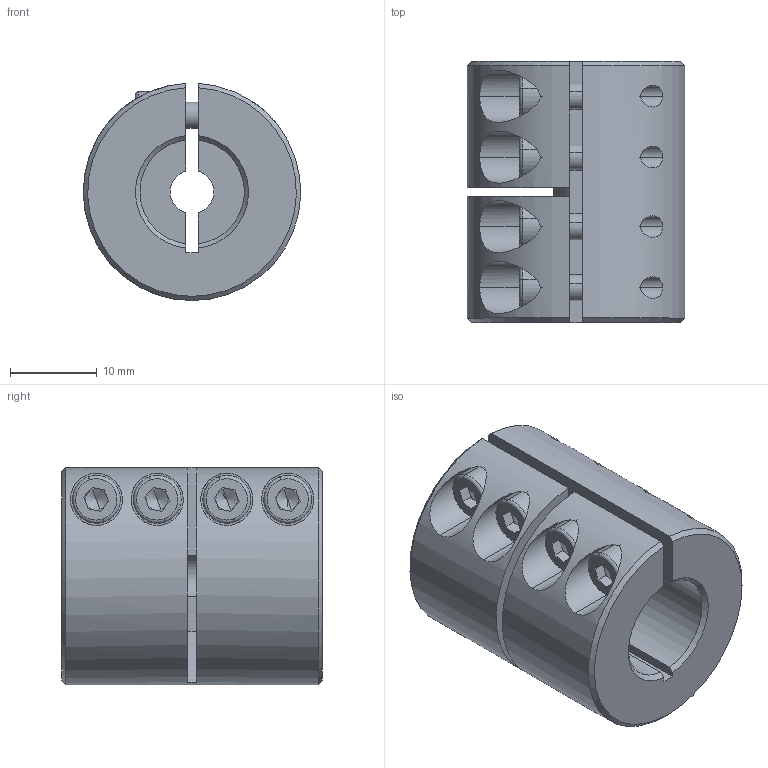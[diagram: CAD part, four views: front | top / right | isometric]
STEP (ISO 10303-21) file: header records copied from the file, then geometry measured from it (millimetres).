
FILE_DESCRIPTION (( 'STEP AP214' ), '1' );
FILE_NAME ('LL-B-D25L30-5-12½¨Ä£.STEP', '2022-07-21T03:08:12', ( '' ), ( '' ), 'SwSTEP 2.0', 'SolidWorks 2022', '' );
FILE_SCHEMA (( 'AUTOMOTIVE_DESIGN' ));
Length unit declared in the file: millimetre
Products named in the file (1): LL-B-D25L30-5-12膘耀
Bounding box: 24.99 x 30 x 24.98 mm (x, y, z)
Volume: 11648.4 mm3; surface area: 5919.2 mm2
Topology: 1 solids, 1 shells, 164 faces, 418 edges, 264 vertices
Faces by surface type: plane 83, cylinder 58, cone 15, torus 8
Entity records: 5402 total; most frequent: CARTESIAN_POINT 1363, DIRECTION 862, ORIENTED_EDGE 820, EDGE_CURVE 410, AXIS2_PLACEMENT_3D 331, VERTEX_POINT 264, LINE 200, VECTOR 200
